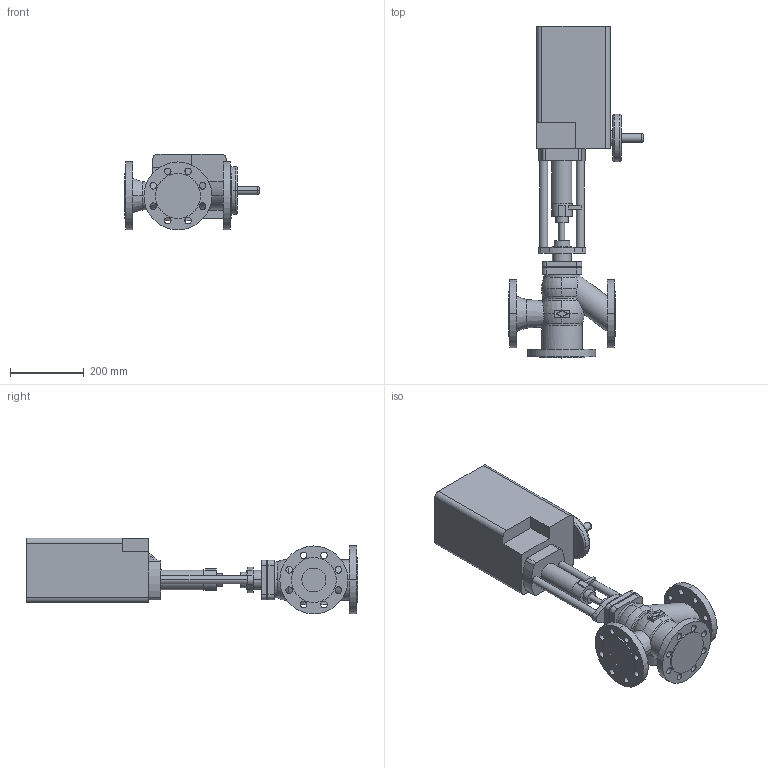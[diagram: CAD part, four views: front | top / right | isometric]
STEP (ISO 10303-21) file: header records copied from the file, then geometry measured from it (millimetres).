
FILE_DESCRIPTION(('OneSpaceDesigner STEP Export'),'2;1');
FILE_NAME('c000002421.stp','2006-09-19T12:10:04',(''),(''),'OneSpace Designer STEP processor for AP214 (Solid Model)','OneSpace Designer 13.20A 18-Aug-2005 (C) CoCreate Software GmbH','');
FILE_SCHEMA(('AUTOMOTIVE_DESIGN { 1 0 10303 214 1 1 1 1 }'));
Length unit declared in the file: millimetre
Products named in the file (2): 1; 2
Bounding box: 366.6 x 903 x 206.5 mm (x, y, z)
Volume: 17651486 mm3; surface area: 788157.8 mm2
Topology: 2 solids, 2 shells, 237 faces, 602 edges, 398 vertices
Faces by surface type: cylinder 120, plane 86, torus 27, cone 4
Entity records: 6716 total; most frequent: CARTESIAN_POINT 1388, ORIENTED_EDGE 1204, DIRECTION 961, EDGE_CURVE 602, VERTEX_POINT 398, AXIS2_PLACEMENT_3D 351, EDGE_LOOP 314, VECTOR 259
